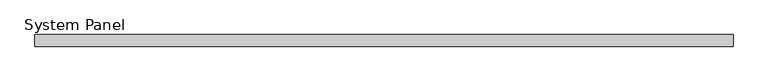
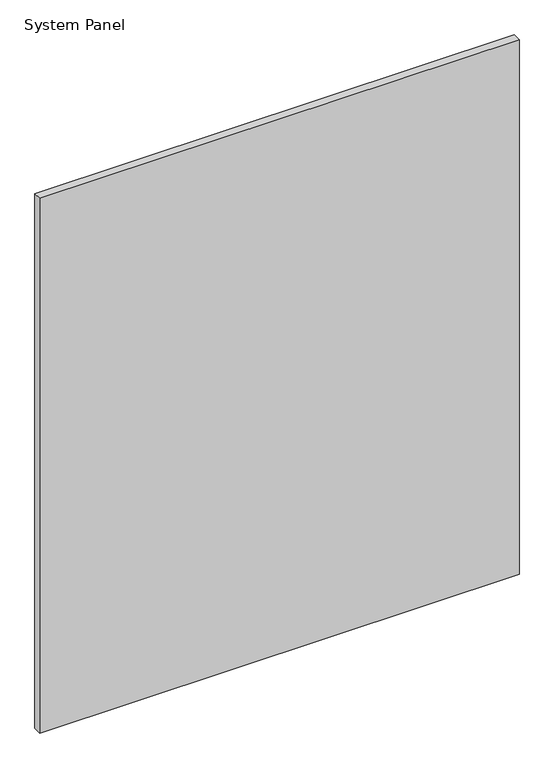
"""IFC4 building model written with IfcOpenShell, lengths in millimetres: plate geometry, System Panel : Panel_Glazed_Generic Showcase_30mm."""

from ifc_helpers import new_model, si_unit, origin, origin_with_axes, place, context, project, spatial, polyline, outline, extrude, source, transform, mapped, element, save


def system_panel_d843c5f9(model_context):
    return source(origin(), model_context, "Body", "SweptSolid", [
        extrude(outline(polyline([(869.239998, 0.0), (-869.239998, 0.0), (-869.239998, 30.0), (869.239998, 30.0), (869.239998, 0.0)])), origin_with_axes(), (0.0, 0.0, 1.0), 2050.0),
    ])


if __name__ == "__main__":
    model = new_model("IFC4")
    model_context = context("Model", 3, world=origin())
    ifc_project = project(units=[si_unit("LENGTHUNIT", "METRE", prefix="MILLI")], contexts=[model_context])
    site = spatial("IfcSite", under=ifc_project)
    building = spatial("IfcBuilding", under=site)
    placement = place(None, origin())
    system_panel_shape = system_panel_d843c5f9(model_context)
    element("IfcPlate", 1, ObjectType="System Panel : Panel_Glazed_Generic Showcase_30mm", at=placement, inside=building, context=model_context, shape_type="MappedRepresentation", body=[
        mapped(system_panel_shape, transform((0.0, 0.0, 0.0), x_axis=(1.0, 0.0, 0.0), y_axis=(0.0, 1.0, 0.0), z_axis=(0.0, 0.0, 1.0))),
    ])
    save(model, "model.ifc")
